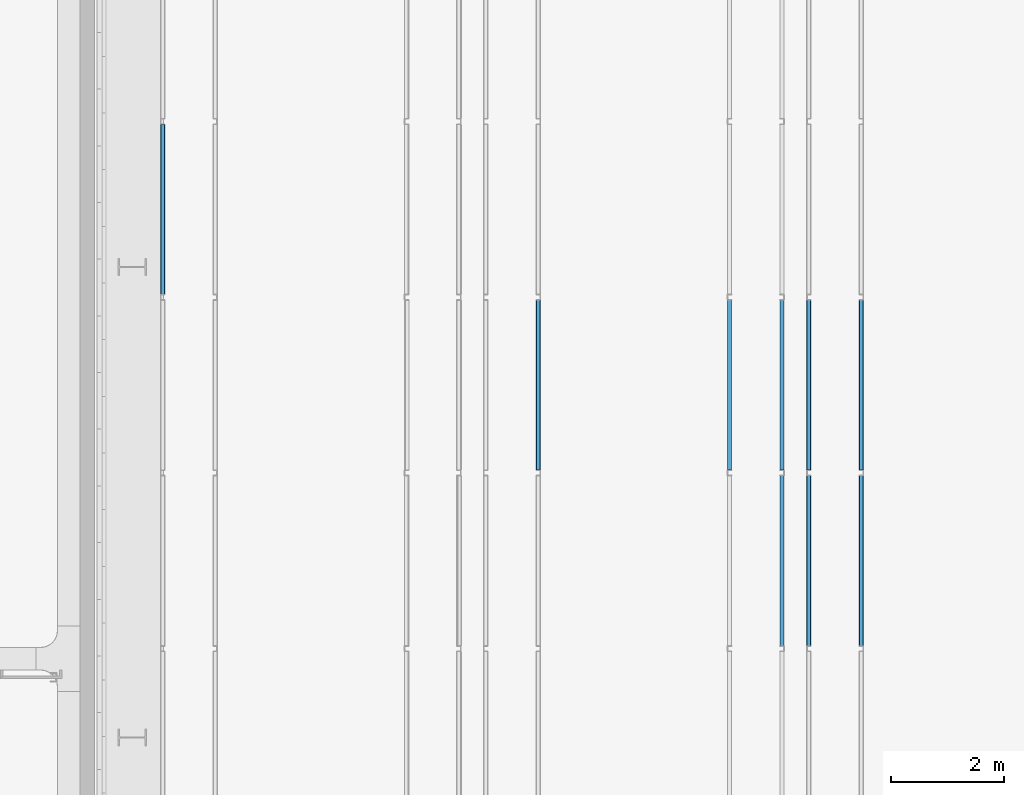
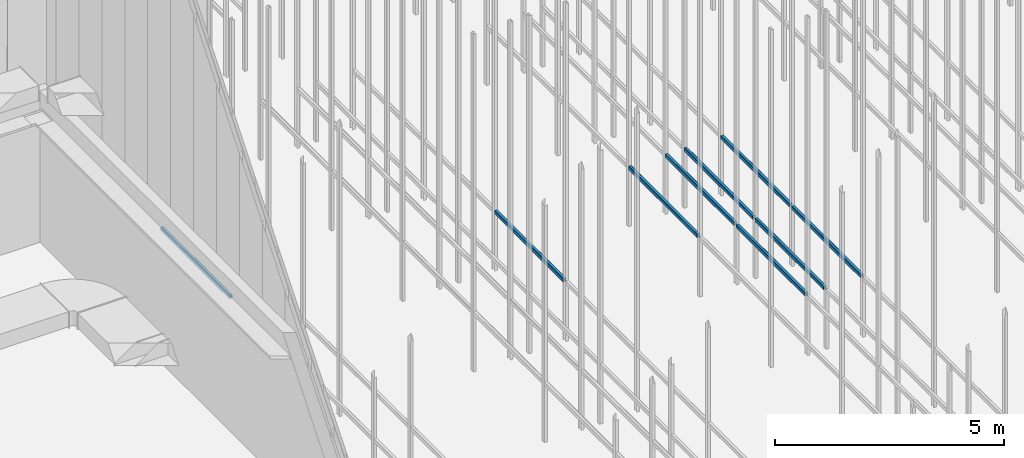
# One storey, part 144 of 302: 9 beams.
"""IFC2X3 building model written with IfcOpenShell, lengths in metres."""

from ifc_helpers import new_model, entity, si_unit, converted_unit, derived_unit, direction, frame, frame_2d, origin, place, context, subcontext, project, spatial, polyline, circle_curve, parameter, trimmed, segment, composite_curve, outline, extrude, material, type_object, element, save


model = new_model("IFC2X3")

# Units and contexts
model_context = context("Model", 3, precision=1e-05, world=origin(), true_north=direction((6.12303176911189e-17, 1.0)))
body_context = subcontext(model_context, "Body", "Model", "MODEL_VIEW")
ifc_project = project(units=[si_unit("LENGTHUNIT", "METRE"), si_unit("AREAUNIT", "SQUARE_METRE"), si_unit("VOLUMEUNIT", "CUBIC_METRE"), converted_unit("PLANEANGLEUNIT", "DEGREE", entity("IfcRatioMeasure", 0.0174532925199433), si_unit("PLANEANGLEUNIT", "RADIAN"), dimensions=[0, 0, 0, 0, 0, 0, 0]), si_unit("MASSUNIT", "GRAM", prefix="KILO"), derived_unit("MASSDENSITYUNIT", [(si_unit("MASSUNIT", "GRAM", prefix="KILO"), 1), (si_unit("LENGTHUNIT", "METRE"), -3)]), derived_unit("MOMENTOFINERTIAUNIT", [(si_unit("LENGTHUNIT", "METRE"), 4)]), si_unit("TIMEUNIT", "SECOND"), si_unit("FREQUENCYUNIT", "HERTZ"), si_unit("THERMODYNAMICTEMPERATUREUNIT", "DEGREE_CELSIUS"), derived_unit("THERMALTRANSMITTANCEUNIT", [(si_unit("MASSUNIT", "GRAM", prefix="KILO"), 1), (si_unit("THERMODYNAMICTEMPERATUREUNIT", "KELVIN"), -1), (si_unit("TIMEUNIT", "SECOND"), -3)]), derived_unit("VOLUMETRICFLOWRATEUNIT", [(si_unit("LENGTHUNIT", "METRE"), 3), (si_unit("TIMEUNIT", "SECOND"), -1)]), si_unit("ELECTRICCURRENTUNIT", "AMPERE"), si_unit("ELECTRICVOLTAGEUNIT", "VOLT"), si_unit("POWERUNIT", "WATT"), si_unit("FORCEUNIT", "NEWTON", prefix="KILO"), si_unit("ILLUMINANCEUNIT", "LUX"), si_unit("LUMINOUSFLUXUNIT", "LUMEN"), si_unit("LUMINOUSINTENSITYUNIT", "CANDELA"), derived_unit("USERDEFINED", [(si_unit("MASSUNIT", "GRAM", prefix="KILO"), -1), (si_unit("LENGTHUNIT", "METRE"), -2), (si_unit("TIMEUNIT", "SECOND"), 3), (si_unit("LUMINOUSFLUXUNIT", "LUMEN"), 1)]), derived_unit("LINEARVELOCITYUNIT", [(si_unit("LENGTHUNIT", "METRE"), 1), (si_unit("TIMEUNIT", "SECOND"), -1)]), si_unit("PRESSUREUNIT", "PASCAL"), derived_unit("USERDEFINED", [(si_unit("LENGTHUNIT", "METRE"), -2), (si_unit("MASSUNIT", "GRAM", prefix="KILO"), 1), (si_unit("TIMEUNIT", "SECOND"), -2)]), derived_unit("LINEARFORCEUNIT", [(si_unit("MASSUNIT", "GRAM", prefix="KILO"), 1), (si_unit("LENGTHUNIT", "METRE"), 1), (si_unit("TIMEUNIT", "SECOND"), -2), (si_unit("LENGTHUNIT", "METRE"), -1)]), derived_unit("PLANARFORCEUNIT", [(si_unit("MASSUNIT", "GRAM", prefix="KILO"), 1), (si_unit("LENGTHUNIT", "METRE"), 1), (si_unit("TIMEUNIT", "SECOND"), -2), (si_unit("LENGTHUNIT", "METRE"), -2)])], contexts=[model_context])

# Site, building, storey
site_placement = place(None, origin())
site = spatial("IfcSite", under=ifc_project, at=site_placement, Name="Default", CompositionType="ELEMENT")
building_placement = place(site_placement, origin())
building = spatial("IfcBuilding", under=site, at=building_placement, CompositionType="ELEMENT")
storey_placement = place(building_placement, frame((0.0, 0.0, -1.3)))
storey = spatial("IfcBuildingStorey", under=building, at=storey_placement, Name="00_EG", CompositionType="ELEMENT", Elevation=-1.3)

# Beams
ifc_material = material(Name="Metall - Baustahl S235 blau")
beam_type = type_object("IfcBeamType", Name="RHS Träger (EN 10219-2):RHS 100 x 75 x 5", PredefinedType="NOTDEFINED")
beam_1_placement = place(storey_placement, frame((-195.565111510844, 33.348088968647, 2.885), z_axis=(0.0, 0.0, 1.0), x_axis=(0.0, 1.0, 0.0)))
element("IfcBeam", 1, at=beam_1_placement, inside=storey, type_object=beam_type, material=ifc_material, Name="RHS Träger (EN 10219-2):RHS 100 x 75 x 5", ObjectType="RHS Träger (EN 10219-2):RHS 100 x 75 x 5", context=body_context, shape_type="SweptSolid", body=[
    extrude(outline(composite_curve([segment(polyline([(-0.0399999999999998, -0.0374999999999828), (0.0400000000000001, -0.0374999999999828)]), True, "CONTINUOUS"), segment(trimmed(circle_curve(frame_2d((0.0399999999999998, -0.0274999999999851), x_axis=(0.0, 1.0)), 0.01), [parameter(180.0)], [parameter(270.0)], True, "PARAMETER"), True, "CONTINUOUS"), segment(polyline([(0.05, -0.0274999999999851), (0.05, 0.0274999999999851)]), True, "CONTINUOUS"), segment(trimmed(circle_curve(frame_2d((0.0399999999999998, 0.0274999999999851), x_axis=(0.0, 1.0)), 0.01), [parameter(270.0)], [parameter(4.07110999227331e-13)], True, "PARAMETER"), True, "CONTINUOUS"), segment(polyline([(0.0400000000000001, 0.0375000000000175), (-0.0399999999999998, 0.0375000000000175)]), True, "CONTINUOUS"), segment(trimmed(circle_curve(frame_2d((-0.0400000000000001, 0.0274999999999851), x_axis=(0.0, 1.0)), 0.01), [parameter(360.0)], [parameter(90.0000000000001)], True, "PARAMETER"), True, "CONTINUOUS"), segment(polyline([(-0.05, 0.0274999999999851), (-0.05, -0.0274999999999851)]), True, "CONTINUOUS"), segment(trimmed(circle_curve(frame_2d((-0.0400000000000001, -0.0274999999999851), x_axis=(0.0, 1.0)), 0.01), [parameter(90.0000000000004)], [parameter(180.0)], True, "PARAMETER"), True, "CONTINUOUS")], self_intersect=False), holes=[composite_curve([segment(trimmed(circle_curve(frame_2d((-0.0400000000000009, 0.0274999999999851), x_axis=(0.0, 1.0)), 0.005), [parameter(360.0)], [parameter(89.9999999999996)], True, "PARAMETER"), False, "CONTINUOUS"), segment(polyline([(-0.0400000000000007, 0.0325000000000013), (0.0399999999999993, 0.0325000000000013)]), True, "CONTINUOUS"), segment(trimmed(circle_curve(frame_2d((0.039999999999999, 0.0274999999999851), x_axis=(0.0, 1.0)), 0.005), [parameter(270.0)], [parameter(0.0)], True, "PARAMETER"), False, "CONTINUOUS"), segment(polyline([(0.0449999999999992, 0.0274999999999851), (0.0449999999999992, -0.0274999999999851)]), True, "CONTINUOUS"), segment(trimmed(circle_curve(frame_2d((0.039999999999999, -0.0274999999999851), x_axis=(0.0, 1.0)), 0.005), [parameter(180.0)], [parameter(269.999999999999)], True, "PARAMETER"), False, "CONTINUOUS"), segment(polyline([(0.0399999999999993, -0.0325000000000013), (-0.0400000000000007, -0.0325000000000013)]), True, "CONTINUOUS"), segment(trimmed(circle_curve(frame_2d((-0.0400000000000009, -0.0274999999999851), x_axis=(0.0, 1.0)), 0.005), [parameter(90.0000000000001)], [parameter(180.0)], True, "PARAMETER"), False, "CONTINUOUS"), segment(polyline([(-0.0450000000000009, -0.0274999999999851), (-0.0450000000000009, 0.0274999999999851)]), True, "CONTINUOUS")], self_intersect=False)]), frame((0.000100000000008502, -0.0375000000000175, -0.0500000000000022), z_axis=(1.0, 0.0, 0.0), x_axis=(0.0, 0.0, -1.0)), (0.0, 0.0, 1.0), 2.9998),
])
beam_2_placement = place(storey_placement, frame((-195.015111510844, 33.348088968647, 2.885), z_axis=(0.0, 0.0, 1.0), x_axis=(0.0, 1.0, 0.0)))
element("IfcBeam", 2, at=beam_2_placement, inside=storey, type_object=beam_type, material=ifc_material, Name="RHS Träger (EN 10219-2):RHS 100 x 75 x 5", ObjectType="RHS Träger (EN 10219-2):RHS 100 x 75 x 5", context=body_context, shape_type="SweptSolid", body=[
    extrude(outline(composite_curve([segment(trimmed(circle_curve(frame_2d((-0.0275000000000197, -0.0400000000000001), x_axis=(1.0, 0.0)), 0.01), [parameter(180.0)], [parameter(270.0)], True, "PARAMETER"), True, "CONTINUOUS"), segment(polyline([(-0.0275000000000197, -0.05), (0.0274999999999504, -0.05)]), True, "CONTINUOUS"), segment(trimmed(circle_curve(frame_2d((0.0274999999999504, -0.0400000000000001), x_axis=(1.0, 0.0)), 0.01), [parameter(270.0)], [parameter(5.08888749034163e-14)], True, "PARAMETER"), True, "CONTINUOUS"), segment(polyline([(0.0374999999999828, -0.0399999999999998), (0.0374999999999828, 0.0400000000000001)]), True, "CONTINUOUS"), segment(trimmed(circle_curve(frame_2d((0.0274999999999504, 0.0399999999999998), x_axis=(1.0, 0.0)), 0.01), [parameter(360.0)], [parameter(89.9999999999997)], True, "PARAMETER"), True, "CONTINUOUS"), segment(polyline([(0.0274999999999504, 0.05), (-0.0275000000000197, 0.05)]), True, "CONTINUOUS"), segment(trimmed(circle_curve(frame_2d((-0.0275000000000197, 0.0399999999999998), x_axis=(1.0, 0.0)), 0.01), [parameter(90.0000000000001)], [parameter(180.0)], True, "PARAMETER"), True, "CONTINUOUS"), segment(polyline([(-0.0375000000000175, 0.0400000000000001), (-0.0375000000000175, -0.0399999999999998)]), True, "CONTINUOUS")], self_intersect=False), holes=[composite_curve([segment(polyline([(0.0274999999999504, -0.0450000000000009), (-0.0275000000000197, -0.0450000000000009)]), True, "CONTINUOUS"), segment(trimmed(circle_curve(frame_2d((-0.0275000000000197, -0.0400000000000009), x_axis=(1.0, 0.0)), 0.005), [parameter(180.0)], [parameter(270.0)], True, "PARAMETER"), False, "CONTINUOUS"), segment(polyline([(-0.0325000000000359, -0.0400000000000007), (-0.0325000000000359, 0.0399999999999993)]), True, "CONTINUOUS"), segment(trimmed(circle_curve(frame_2d((-0.0275000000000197, 0.039999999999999), x_axis=(1.0, 0.0)), 0.005), [parameter(90.0000000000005)], [parameter(180.0)], True, "PARAMETER"), False, "CONTINUOUS"), segment(polyline([(-0.0275000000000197, 0.0449999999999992), (0.0274999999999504, 0.0449999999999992)]), True, "CONTINUOUS"), segment(trimmed(circle_curve(frame_2d((0.0274999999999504, 0.039999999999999), x_axis=(1.0, 0.0)), 0.005), [parameter(0.0)], [parameter(90.0000000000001)], True, "PARAMETER"), False, "CONTINUOUS"), segment(polyline([(0.0324999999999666, 0.0399999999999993), (0.0324999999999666, -0.0400000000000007)]), True, "CONTINUOUS"), segment(trimmed(circle_curve(frame_2d((0.0274999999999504, -0.0400000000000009), x_axis=(1.0, 0.0)), 0.005), [parameter(270.0)], [parameter(4.07110999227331e-13)], True, "PARAMETER"), False, "CONTINUOUS")], self_intersect=False)]), frame((9.99999999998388e-05, 0.0374999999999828, -0.0500000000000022), z_axis=(1.0, 0.0, 0.0), x_axis=(0.0, -1.0, 0.0)), (0.0, 0.0, 1.0), 2.9998),
])
beam_3_placement = place(storey_placement, frame((-194.165111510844, 33.348088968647, 2.885), z_axis=(0.0, 0.0, 1.0), x_axis=(0.0, 1.0, 0.0)))
element("IfcBeam", 3, at=beam_3_placement, inside=storey, type_object=beam_type, material=ifc_material, Name="RHS Träger (EN 10219-2):RHS 100 x 75 x 5", ObjectType="RHS Träger (EN 10219-2):RHS 100 x 75 x 5", context=body_context, shape_type="SweptSolid", body=[
    extrude(outline(composite_curve([segment(polyline([(-0.0399999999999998, -0.0374999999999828), (0.0400000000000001, -0.0374999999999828)]), True, "CONTINUOUS"), segment(trimmed(circle_curve(frame_2d((0.0399999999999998, -0.0274999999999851), x_axis=(0.0, 1.0)), 0.01), [parameter(180.0)], [parameter(270.0)], True, "PARAMETER"), True, "CONTINUOUS"), segment(polyline([(0.05, -0.0274999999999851), (0.05, 0.0274999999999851)]), True, "CONTINUOUS"), segment(trimmed(circle_curve(frame_2d((0.0399999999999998, 0.0274999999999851), x_axis=(0.0, 1.0)), 0.01), [parameter(270.0)], [parameter(4.07110999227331e-13)], True, "PARAMETER"), True, "CONTINUOUS"), segment(polyline([(0.0400000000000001, 0.0375000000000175), (-0.0399999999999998, 0.0375000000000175)]), True, "CONTINUOUS"), segment(trimmed(circle_curve(frame_2d((-0.0400000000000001, 0.0274999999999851), x_axis=(0.0, 1.0)), 0.01), [parameter(360.0)], [parameter(90.0000000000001)], True, "PARAMETER"), True, "CONTINUOUS"), segment(polyline([(-0.05, 0.0274999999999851), (-0.05, -0.0274999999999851)]), True, "CONTINUOUS"), segment(trimmed(circle_curve(frame_2d((-0.0400000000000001, -0.0274999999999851), x_axis=(0.0, 1.0)), 0.01), [parameter(90.0000000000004)], [parameter(180.0)], True, "PARAMETER"), True, "CONTINUOUS")], self_intersect=False), holes=[composite_curve([segment(trimmed(circle_curve(frame_2d((-0.0400000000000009, 0.0274999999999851), x_axis=(0.0, 1.0)), 0.005), [parameter(360.0)], [parameter(89.9999999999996)], True, "PARAMETER"), False, "CONTINUOUS"), segment(polyline([(-0.0400000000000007, 0.0325000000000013), (0.0399999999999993, 0.0325000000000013)]), True, "CONTINUOUS"), segment(trimmed(circle_curve(frame_2d((0.039999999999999, 0.0274999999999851), x_axis=(0.0, 1.0)), 0.005), [parameter(270.0)], [parameter(0.0)], True, "PARAMETER"), False, "CONTINUOUS"), segment(polyline([(0.0449999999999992, 0.0274999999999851), (0.0449999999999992, -0.0274999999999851)]), True, "CONTINUOUS"), segment(trimmed(circle_curve(frame_2d((0.039999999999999, -0.0274999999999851), x_axis=(0.0, 1.0)), 0.005), [parameter(180.0)], [parameter(269.999999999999)], True, "PARAMETER"), False, "CONTINUOUS"), segment(polyline([(0.0399999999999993, -0.0325000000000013), (-0.0400000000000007, -0.0325000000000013)]), True, "CONTINUOUS"), segment(trimmed(circle_curve(frame_2d((-0.0400000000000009, -0.0274999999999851), x_axis=(0.0, 1.0)), 0.005), [parameter(90.0000000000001)], [parameter(180.0)], True, "PARAMETER"), False, "CONTINUOUS"), segment(polyline([(-0.0450000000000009, -0.0274999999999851), (-0.0450000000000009, 0.0274999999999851)]), True, "CONTINUOUS")], self_intersect=False)]), frame((9.99999999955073e-05, -0.0375000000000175, -0.0500000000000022), z_axis=(1.0, 0.0, 0.0), x_axis=(0.0, 0.0, -1.0)), (0.0, 0.0, 1.0), 2.9998),
])
beam_4_placement = place(storey_placement, frame((-196.415111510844, 36.448088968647, 2.885), z_axis=(0.0, 0.0, 1.0), x_axis=(0.0, 1.0, 0.0)))
element("IfcBeam", 4, at=beam_4_placement, inside=storey, type_object=beam_type, material=ifc_material, Name="RHS Träger (EN 10219-2):RHS 100 x 75 x 5", ObjectType="RHS Träger (EN 10219-2):RHS 100 x 75 x 5", context=body_context, shape_type="SweptSolid", body=[
    extrude(outline(composite_curve([segment(trimmed(circle_curve(frame_2d((-0.0274999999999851, -0.0400000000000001), x_axis=(1.0, 0.0)), 0.01), [parameter(180.0)], [parameter(270.0)], True, "PARAMETER"), True, "CONTINUOUS"), segment(polyline([(-0.0274999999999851, -0.05), (0.0274999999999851, -0.05)]), True, "CONTINUOUS"), segment(trimmed(circle_curve(frame_2d((0.0274999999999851, -0.0400000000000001), x_axis=(1.0, 0.0)), 0.01), [parameter(270.0)], [parameter(5.08888749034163e-14)], True, "PARAMETER"), True, "CONTINUOUS"), segment(polyline([(0.0375000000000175, -0.0399999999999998), (0.0375000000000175, 0.0400000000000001)]), True, "CONTINUOUS"), segment(trimmed(circle_curve(frame_2d((0.0274999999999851, 0.0399999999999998), x_axis=(1.0, 0.0)), 0.01), [parameter(360.0)], [parameter(89.9999999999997)], True, "PARAMETER"), True, "CONTINUOUS"), segment(polyline([(0.0274999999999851, 0.05), (-0.0274999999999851, 0.05)]), True, "CONTINUOUS"), segment(trimmed(circle_curve(frame_2d((-0.0274999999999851, 0.0399999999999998), x_axis=(1.0, 0.0)), 0.01), [parameter(90.0000000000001)], [parameter(180.0)], True, "PARAMETER"), True, "CONTINUOUS"), segment(polyline([(-0.0374999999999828, 0.0400000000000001), (-0.0374999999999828, -0.0399999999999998)]), True, "CONTINUOUS")], self_intersect=False), holes=[composite_curve([segment(polyline([(0.0274999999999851, -0.0450000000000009), (-0.0274999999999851, -0.0450000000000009)]), True, "CONTINUOUS"), segment(trimmed(circle_curve(frame_2d((-0.0274999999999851, -0.0400000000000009), x_axis=(1.0, 0.0)), 0.005), [parameter(180.0)], [parameter(270.0)], True, "PARAMETER"), False, "CONTINUOUS"), segment(polyline([(-0.0325000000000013, -0.0400000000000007), (-0.0325000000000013, 0.0399999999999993)]), True, "CONTINUOUS"), segment(trimmed(circle_curve(frame_2d((-0.0274999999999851, 0.039999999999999), x_axis=(1.0, 0.0)), 0.005), [parameter(90.0000000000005)], [parameter(180.0)], True, "PARAMETER"), False, "CONTINUOUS"), segment(polyline([(-0.0274999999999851, 0.0449999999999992), (0.0274999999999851, 0.0449999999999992)]), True, "CONTINUOUS"), segment(trimmed(circle_curve(frame_2d((0.0274999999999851, 0.039999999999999), x_axis=(1.0, 0.0)), 0.005), [parameter(0.0)], [parameter(90.0000000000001)], True, "PARAMETER"), False, "CONTINUOUS"), segment(polyline([(0.0325000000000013, 0.0399999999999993), (0.0325000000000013, -0.0400000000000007)]), True, "CONTINUOUS"), segment(trimmed(circle_curve(frame_2d((0.0274999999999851, -0.0400000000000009), x_axis=(1.0, 0.0)), 0.005), [parameter(270.0)], [parameter(4.07110999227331e-13)], True, "PARAMETER"), False, "CONTINUOUS")], self_intersect=False)]), frame((0.00010000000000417, 0.0375000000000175, -0.0500000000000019), z_axis=(1.0, 0.0, 0.0), x_axis=(0.0, -1.0, 0.0)), (0.0, 0.0, 1.0), 2.9998),
])
beam_5_placement = place(storey_placement, frame((-195.565111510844, 36.448088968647, 2.885), z_axis=(0.0, 0.0, 1.0), x_axis=(0.0, 1.0, 0.0)))
element("IfcBeam", 5, at=beam_5_placement, inside=storey, type_object=beam_type, material=ifc_material, Name="RHS Träger (EN 10219-2):RHS 100 x 75 x 5", ObjectType="RHS Träger (EN 10219-2):RHS 100 x 75 x 5", context=body_context, shape_type="SweptSolid", body=[
    extrude(outline(composite_curve([segment(polyline([(-0.0399999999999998, -0.0374999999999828), (0.0400000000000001, -0.0374999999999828)]), True, "CONTINUOUS"), segment(trimmed(circle_curve(frame_2d((0.0399999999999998, -0.0274999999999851), x_axis=(0.0, 1.0)), 0.01), [parameter(180.0)], [parameter(270.0)], True, "PARAMETER"), True, "CONTINUOUS"), segment(polyline([(0.05, -0.0274999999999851), (0.05, 0.0274999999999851)]), True, "CONTINUOUS"), segment(trimmed(circle_curve(frame_2d((0.0399999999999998, 0.0274999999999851), x_axis=(0.0, 1.0)), 0.01), [parameter(270.0)], [parameter(4.07110999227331e-13)], True, "PARAMETER"), True, "CONTINUOUS"), segment(polyline([(0.0400000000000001, 0.0375000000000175), (-0.0399999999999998, 0.0375000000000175)]), True, "CONTINUOUS"), segment(trimmed(circle_curve(frame_2d((-0.0400000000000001, 0.0274999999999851), x_axis=(0.0, 1.0)), 0.01), [parameter(360.0)], [parameter(90.0000000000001)], True, "PARAMETER"), True, "CONTINUOUS"), segment(polyline([(-0.05, 0.0274999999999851), (-0.05, -0.0274999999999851)]), True, "CONTINUOUS"), segment(trimmed(circle_curve(frame_2d((-0.0400000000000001, -0.0274999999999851), x_axis=(0.0, 1.0)), 0.01), [parameter(90.0000000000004)], [parameter(180.0)], True, "PARAMETER"), True, "CONTINUOUS")], self_intersect=False), holes=[composite_curve([segment(trimmed(circle_curve(frame_2d((-0.0400000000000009, 0.0274999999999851), x_axis=(0.0, 1.0)), 0.005), [parameter(360.0)], [parameter(89.9999999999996)], True, "PARAMETER"), False, "CONTINUOUS"), segment(polyline([(-0.0400000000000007, 0.0325000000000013), (0.0399999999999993, 0.0325000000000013)]), True, "CONTINUOUS"), segment(trimmed(circle_curve(frame_2d((0.039999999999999, 0.0274999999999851), x_axis=(0.0, 1.0)), 0.005), [parameter(270.0)], [parameter(0.0)], True, "PARAMETER"), False, "CONTINUOUS"), segment(polyline([(0.0449999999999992, 0.0274999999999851), (0.0449999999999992, -0.0274999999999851)]), True, "CONTINUOUS"), segment(trimmed(circle_curve(frame_2d((0.039999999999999, -0.0274999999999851), x_axis=(0.0, 1.0)), 0.005), [parameter(180.0)], [parameter(269.999999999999)], True, "PARAMETER"), False, "CONTINUOUS"), segment(polyline([(0.0399999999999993, -0.0325000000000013), (-0.0400000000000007, -0.0325000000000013)]), True, "CONTINUOUS"), segment(trimmed(circle_curve(frame_2d((-0.0400000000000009, -0.0274999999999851), x_axis=(0.0, 1.0)), 0.005), [parameter(90.0000000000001)], [parameter(180.0)], True, "PARAMETER"), False, "CONTINUOUS"), segment(polyline([(-0.0450000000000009, -0.0274999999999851), (-0.0450000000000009, 0.0274999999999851)]), True, "CONTINUOUS")], self_intersect=False)]), frame((0.00010000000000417, -0.0375000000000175, -0.0500000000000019), z_axis=(1.0, 0.0, 0.0), x_axis=(0.0, 0.0, -1.0)), (0.0, 0.0, 1.0), 2.9998),
])
beam_6_placement = place(storey_placement, frame((-195.015111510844, 36.448088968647, 2.885), z_axis=(0.0, 0.0, 1.0), x_axis=(0.0, 1.0, 0.0)))
element("IfcBeam", 6, at=beam_6_placement, inside=storey, type_object=beam_type, material=ifc_material, Name="RHS Träger (EN 10219-2):RHS 100 x 75 x 5", ObjectType="RHS Träger (EN 10219-2):RHS 100 x 75 x 5", context=body_context, shape_type="SweptSolid", body=[
    extrude(outline(composite_curve([segment(trimmed(circle_curve(frame_2d((-0.0275000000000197, -0.0400000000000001), x_axis=(1.0, 0.0)), 0.01), [parameter(180.0)], [parameter(270.0)], True, "PARAMETER"), True, "CONTINUOUS"), segment(polyline([(-0.0275000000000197, -0.05), (0.0274999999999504, -0.05)]), True, "CONTINUOUS"), segment(trimmed(circle_curve(frame_2d((0.0274999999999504, -0.0400000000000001), x_axis=(1.0, 0.0)), 0.01), [parameter(270.0)], [parameter(5.08888749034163e-14)], True, "PARAMETER"), True, "CONTINUOUS"), segment(polyline([(0.0374999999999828, -0.0399999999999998), (0.0374999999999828, 0.0400000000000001)]), True, "CONTINUOUS"), segment(trimmed(circle_curve(frame_2d((0.0274999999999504, 0.0399999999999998), x_axis=(1.0, 0.0)), 0.01), [parameter(360.0)], [parameter(89.9999999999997)], True, "PARAMETER"), True, "CONTINUOUS"), segment(polyline([(0.0274999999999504, 0.05), (-0.0275000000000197, 0.05)]), True, "CONTINUOUS"), segment(trimmed(circle_curve(frame_2d((-0.0275000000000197, 0.0399999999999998), x_axis=(1.0, 0.0)), 0.01), [parameter(90.0000000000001)], [parameter(180.0)], True, "PARAMETER"), True, "CONTINUOUS"), segment(polyline([(-0.0375000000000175, 0.0400000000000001), (-0.0375000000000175, -0.0399999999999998)]), True, "CONTINUOUS")], self_intersect=False), holes=[composite_curve([segment(polyline([(0.0274999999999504, -0.0450000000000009), (-0.0275000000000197, -0.0450000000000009)]), True, "CONTINUOUS"), segment(trimmed(circle_curve(frame_2d((-0.0275000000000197, -0.0400000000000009), x_axis=(1.0, 0.0)), 0.005), [parameter(180.0)], [parameter(270.0)], True, "PARAMETER"), False, "CONTINUOUS"), segment(polyline([(-0.0325000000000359, -0.0400000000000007), (-0.0325000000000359, 0.0399999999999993)]), True, "CONTINUOUS"), segment(trimmed(circle_curve(frame_2d((-0.0275000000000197, 0.039999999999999), x_axis=(1.0, 0.0)), 0.005), [parameter(90.0000000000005)], [parameter(180.0)], True, "PARAMETER"), False, "CONTINUOUS"), segment(polyline([(-0.0275000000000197, 0.0449999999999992), (0.0274999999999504, 0.0449999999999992)]), True, "CONTINUOUS"), segment(trimmed(circle_curve(frame_2d((0.0274999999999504, 0.039999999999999), x_axis=(1.0, 0.0)), 0.005), [parameter(0.0)], [parameter(90.0000000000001)], True, "PARAMETER"), False, "CONTINUOUS"), segment(polyline([(0.0324999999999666, 0.0399999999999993), (0.0324999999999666, -0.0400000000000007)]), True, "CONTINUOUS"), segment(trimmed(circle_curve(frame_2d((0.0274999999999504, -0.0400000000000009), x_axis=(1.0, 0.0)), 0.005), [parameter(270.0)], [parameter(4.07110999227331e-13)], True, "PARAMETER"), False, "CONTINUOUS")], self_intersect=False)]), frame((0.00010000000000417, 0.0374999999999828, -0.0500000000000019), z_axis=(1.0, 0.0, 0.0), x_axis=(0.0, -1.0, 0.0)), (0.0, 0.0, 1.0), 2.9998),
])
beam_7_placement = place(storey_placement, frame((-194.165111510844, 36.448088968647, 2.885), z_axis=(0.0, 0.0, 1.0), x_axis=(0.0, 1.0, 0.0)))
element("IfcBeam", 7, at=beam_7_placement, inside=storey, type_object=beam_type, material=ifc_material, Name="RHS Träger (EN 10219-2):RHS 100 x 75 x 5", ObjectType="RHS Träger (EN 10219-2):RHS 100 x 75 x 5", context=body_context, shape_type="SweptSolid", body=[
    extrude(outline(composite_curve([segment(polyline([(-0.0399999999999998, -0.0374999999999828), (0.0400000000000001, -0.0374999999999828)]), True, "CONTINUOUS"), segment(trimmed(circle_curve(frame_2d((0.0399999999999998, -0.0274999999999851), x_axis=(0.0, 1.0)), 0.01), [parameter(180.0)], [parameter(270.0)], True, "PARAMETER"), True, "CONTINUOUS"), segment(polyline([(0.05, -0.0274999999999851), (0.05, 0.0274999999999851)]), True, "CONTINUOUS"), segment(trimmed(circle_curve(frame_2d((0.0399999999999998, 0.0274999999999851), x_axis=(0.0, 1.0)), 0.01), [parameter(270.0)], [parameter(4.07110999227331e-13)], True, "PARAMETER"), True, "CONTINUOUS"), segment(polyline([(0.0400000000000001, 0.0375000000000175), (-0.0399999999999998, 0.0375000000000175)]), True, "CONTINUOUS"), segment(trimmed(circle_curve(frame_2d((-0.0400000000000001, 0.0274999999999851), x_axis=(0.0, 1.0)), 0.01), [parameter(360.0)], [parameter(90.0000000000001)], True, "PARAMETER"), True, "CONTINUOUS"), segment(polyline([(-0.05, 0.0274999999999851), (-0.05, -0.0274999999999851)]), True, "CONTINUOUS"), segment(trimmed(circle_curve(frame_2d((-0.0400000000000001, -0.0274999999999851), x_axis=(0.0, 1.0)), 0.01), [parameter(90.0000000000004)], [parameter(180.0)], True, "PARAMETER"), True, "CONTINUOUS")], self_intersect=False), holes=[composite_curve([segment(trimmed(circle_curve(frame_2d((-0.0400000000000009, 0.0274999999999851), x_axis=(0.0, 1.0)), 0.005), [parameter(360.0)], [parameter(89.9999999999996)], True, "PARAMETER"), False, "CONTINUOUS"), segment(polyline([(-0.0400000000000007, 0.0325000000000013), (0.0399999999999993, 0.0325000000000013)]), True, "CONTINUOUS"), segment(trimmed(circle_curve(frame_2d((0.039999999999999, 0.0274999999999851), x_axis=(0.0, 1.0)), 0.005), [parameter(270.0)], [parameter(0.0)], True, "PARAMETER"), False, "CONTINUOUS"), segment(polyline([(0.0449999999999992, 0.0274999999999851), (0.0449999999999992, -0.0274999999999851)]), True, "CONTINUOUS"), segment(trimmed(circle_curve(frame_2d((0.039999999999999, -0.0274999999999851), x_axis=(0.0, 1.0)), 0.005), [parameter(180.0)], [parameter(269.999999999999)], True, "PARAMETER"), False, "CONTINUOUS"), segment(polyline([(0.0399999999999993, -0.0325000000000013), (-0.0400000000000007, -0.0325000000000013)]), True, "CONTINUOUS"), segment(trimmed(circle_curve(frame_2d((-0.0400000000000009, -0.0274999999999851), x_axis=(0.0, 1.0)), 0.005), [parameter(90.0000000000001)], [parameter(180.0)], True, "PARAMETER"), False, "CONTINUOUS"), segment(polyline([(-0.0450000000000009, -0.0274999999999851), (-0.0450000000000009, 0.0274999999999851)]), True, "CONTINUOUS")], self_intersect=False)]), frame((0.00010000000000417, -0.0375000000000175, -0.0500000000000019), z_axis=(1.0, 0.0, 0.0), x_axis=(0.0, 0.0, -1.0)), (0.0, 0.0, 1.0), 2.9998),
])
beam_8_placement = place(storey_placement, frame((-199.865111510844, 36.448088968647, 2.885), z_axis=(0.0, 0.0, 1.0), x_axis=(0.0, 1.0, 0.0)))
element("IfcBeam", 8, at=beam_8_placement, inside=storey, type_object=beam_type, material=ifc_material, Name="RHS Träger (EN 10219-2):RHS 100 x 75 x 5", ObjectType="RHS Träger (EN 10219-2):RHS 100 x 75 x 5", context=body_context, shape_type="SweptSolid", body=[
    extrude(outline(composite_curve([segment(polyline([(-0.0399999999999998, -0.0374999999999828), (0.0400000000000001, -0.0374999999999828)]), True, "CONTINUOUS"), segment(trimmed(circle_curve(frame_2d((0.0399999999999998, -0.0274999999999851), x_axis=(0.0, 1.0)), 0.01), [parameter(180.0)], [parameter(270.0)], True, "PARAMETER"), True, "CONTINUOUS"), segment(polyline([(0.05, -0.0274999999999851), (0.05, 0.0274999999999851)]), True, "CONTINUOUS"), segment(trimmed(circle_curve(frame_2d((0.0399999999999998, 0.0274999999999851), x_axis=(0.0, 1.0)), 0.01), [parameter(270.0)], [parameter(4.07110999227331e-13)], True, "PARAMETER"), True, "CONTINUOUS"), segment(polyline([(0.0400000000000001, 0.0375000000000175), (-0.0399999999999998, 0.0375000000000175)]), True, "CONTINUOUS"), segment(trimmed(circle_curve(frame_2d((-0.0400000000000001, 0.0274999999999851), x_axis=(0.0, 1.0)), 0.01), [parameter(360.0)], [parameter(90.0000000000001)], True, "PARAMETER"), True, "CONTINUOUS"), segment(polyline([(-0.05, 0.0274999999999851), (-0.05, -0.0274999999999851)]), True, "CONTINUOUS"), segment(trimmed(circle_curve(frame_2d((-0.0400000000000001, -0.0274999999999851), x_axis=(0.0, 1.0)), 0.01), [parameter(90.0000000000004)], [parameter(180.0)], True, "PARAMETER"), True, "CONTINUOUS")], self_intersect=False), holes=[composite_curve([segment(trimmed(circle_curve(frame_2d((-0.0400000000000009, 0.0274999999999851), x_axis=(0.0, 1.0)), 0.005), [parameter(360.0)], [parameter(89.9999999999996)], True, "PARAMETER"), False, "CONTINUOUS"), segment(polyline([(-0.0400000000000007, 0.0325000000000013), (0.0399999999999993, 0.0325000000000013)]), True, "CONTINUOUS"), segment(trimmed(circle_curve(frame_2d((0.039999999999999, 0.0274999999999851), x_axis=(0.0, 1.0)), 0.005), [parameter(270.0)], [parameter(0.0)], True, "PARAMETER"), False, "CONTINUOUS"), segment(polyline([(0.0449999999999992, 0.0274999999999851), (0.0449999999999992, -0.0274999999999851)]), True, "CONTINUOUS"), segment(trimmed(circle_curve(frame_2d((0.039999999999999, -0.0274999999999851), x_axis=(0.0, 1.0)), 0.005), [parameter(180.0)], [parameter(269.999999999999)], True, "PARAMETER"), False, "CONTINUOUS"), segment(polyline([(0.0399999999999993, -0.0325000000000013), (-0.0400000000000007, -0.0325000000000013)]), True, "CONTINUOUS"), segment(trimmed(circle_curve(frame_2d((-0.0400000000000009, -0.0274999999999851), x_axis=(0.0, 1.0)), 0.005), [parameter(90.0000000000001)], [parameter(180.0)], True, "PARAMETER"), False, "CONTINUOUS"), segment(polyline([(-0.0450000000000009, -0.0274999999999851), (-0.0450000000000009, 0.0274999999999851)]), True, "CONTINUOUS")], self_intersect=False)]), frame((9.99999999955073e-05, -0.0375000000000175, -0.0500000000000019), z_axis=(1.0, 0.0, 0.0), x_axis=(0.0, 0.0, -1.0)), (0.0, 0.0, 1.0), 2.9998),
])
beam_9_placement = place(storey_placement, frame((-206.415111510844, 39.548088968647, 2.885), z_axis=(0.0, 0.0, 1.0), x_axis=(0.0, 1.0, 0.0)))
element("IfcBeam", 9, at=beam_9_placement, inside=storey, type_object=beam_type, material=ifc_material, Name="RHS Träger (EN 10219-2):RHS 100 x 75 x 5", ObjectType="RHS Träger (EN 10219-2):RHS 100 x 75 x 5", context=body_context, shape_type="SweptSolid", body=[
    extrude(outline(composite_curve([segment(trimmed(circle_curve(frame_2d((-0.0274999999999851, -0.0400000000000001), x_axis=(1.0, 0.0)), 0.01), [parameter(180.0)], [parameter(270.0)], True, "PARAMETER"), True, "CONTINUOUS"), segment(polyline([(-0.0274999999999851, -0.05), (0.0274999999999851, -0.05)]), True, "CONTINUOUS"), segment(trimmed(circle_curve(frame_2d((0.0274999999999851, -0.0400000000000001), x_axis=(1.0, 0.0)), 0.01), [parameter(270.0)], [parameter(5.08888749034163e-14)], True, "PARAMETER"), True, "CONTINUOUS"), segment(polyline([(0.0375000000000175, -0.0399999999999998), (0.0375000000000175, 0.0400000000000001)]), True, "CONTINUOUS"), segment(trimmed(circle_curve(frame_2d((0.0274999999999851, 0.0399999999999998), x_axis=(1.0, 0.0)), 0.01), [parameter(360.0)], [parameter(89.9999999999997)], True, "PARAMETER"), True, "CONTINUOUS"), segment(polyline([(0.0274999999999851, 0.05), (-0.0274999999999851, 0.05)]), True, "CONTINUOUS"), segment(trimmed(circle_curve(frame_2d((-0.0274999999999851, 0.0399999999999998), x_axis=(1.0, 0.0)), 0.01), [parameter(90.0000000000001)], [parameter(180.0)], True, "PARAMETER"), True, "CONTINUOUS"), segment(polyline([(-0.0374999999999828, 0.0400000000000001), (-0.0374999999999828, -0.0399999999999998)]), True, "CONTINUOUS")], self_intersect=False), holes=[composite_curve([segment(polyline([(0.0274999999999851, -0.0450000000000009), (-0.0274999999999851, -0.0450000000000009)]), True, "CONTINUOUS"), segment(trimmed(circle_curve(frame_2d((-0.0274999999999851, -0.0400000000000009), x_axis=(1.0, 0.0)), 0.005), [parameter(180.0)], [parameter(270.0)], True, "PARAMETER"), False, "CONTINUOUS"), segment(polyline([(-0.0325000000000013, -0.0400000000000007), (-0.0325000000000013, 0.0399999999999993)]), True, "CONTINUOUS"), segment(trimmed(circle_curve(frame_2d((-0.0274999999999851, 0.039999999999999), x_axis=(1.0, 0.0)), 0.005), [parameter(90.0000000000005)], [parameter(180.0)], True, "PARAMETER"), False, "CONTINUOUS"), segment(polyline([(-0.0274999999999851, 0.0449999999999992), (0.0274999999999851, 0.0449999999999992)]), True, "CONTINUOUS"), segment(trimmed(circle_curve(frame_2d((0.0274999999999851, 0.039999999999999), x_axis=(1.0, 0.0)), 0.005), [parameter(0.0)], [parameter(90.0000000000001)], True, "PARAMETER"), False, "CONTINUOUS"), segment(polyline([(0.0325000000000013, 0.0399999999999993), (0.0325000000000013, -0.0400000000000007)]), True, "CONTINUOUS"), segment(trimmed(circle_curve(frame_2d((0.0274999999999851, -0.0400000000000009), x_axis=(1.0, 0.0)), 0.005), [parameter(270.0)], [parameter(4.07110999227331e-13)], True, "PARAMETER"), False, "CONTINUOUS")], self_intersect=False)]), frame((0.000100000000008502, 0.0375000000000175, -0.0500000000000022), z_axis=(1.0, 0.0, 0.0), x_axis=(0.0, -1.0, 0.0)), (0.0, 0.0, 1.0), 2.99979999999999),
])

save(model, "model.ifc")
